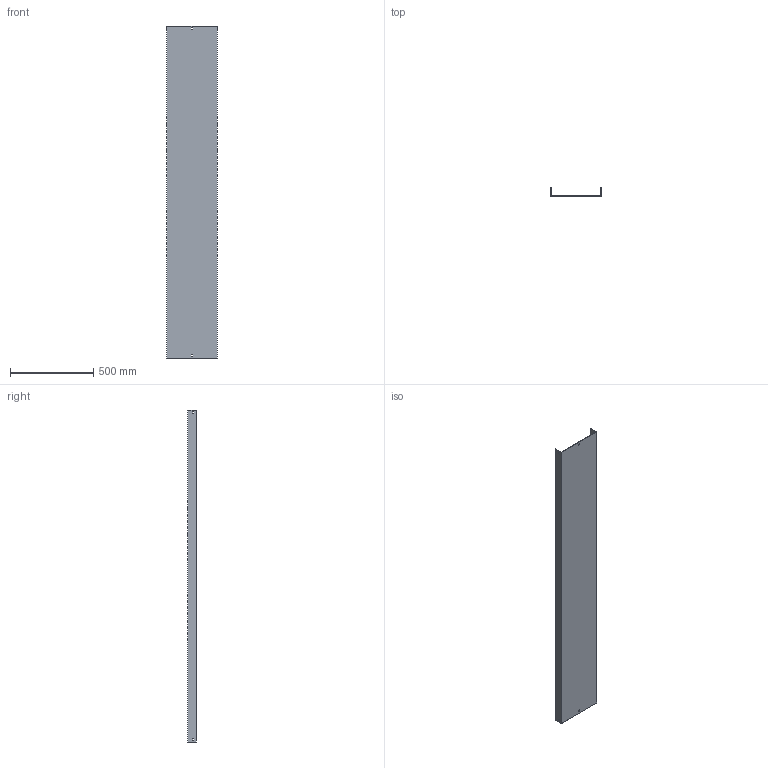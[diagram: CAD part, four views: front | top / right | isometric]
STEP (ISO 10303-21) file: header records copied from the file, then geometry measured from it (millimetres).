
FILE_DESCRIPTION (( 'STEP AP214' ), '1' );
FILE_NAME ('03F2B300.step', '2025-02-21T13:23:42', ( '' ), ( '' ), 'SwSTEP 2.0', 'SolidWorks 2023', '' );
FILE_SCHEMA (( 'AUTOMOTIVE_DESIGN' ));
Length unit declared in the file: millimetre
Products named in the file (1): 03F2B300
Bounding box: 304 x 52 x 2000 mm (x, y, z)
Volume: 2805610.5 mm3; surface area: 1620706 mm2
Topology: 1 solids, 1 shells, 34 faces, 96 edges, 64 vertices
Faces by surface type: plane 34
Entity records: 1127 total; most frequent: CARTESIAN_POINT 195, ORIENTED_EDGE 192, DIRECTION 166, LINE 96, EDGE_CURVE 96, VECTOR 96, VERTEX_POINT 64, EDGE_LOOP 46
